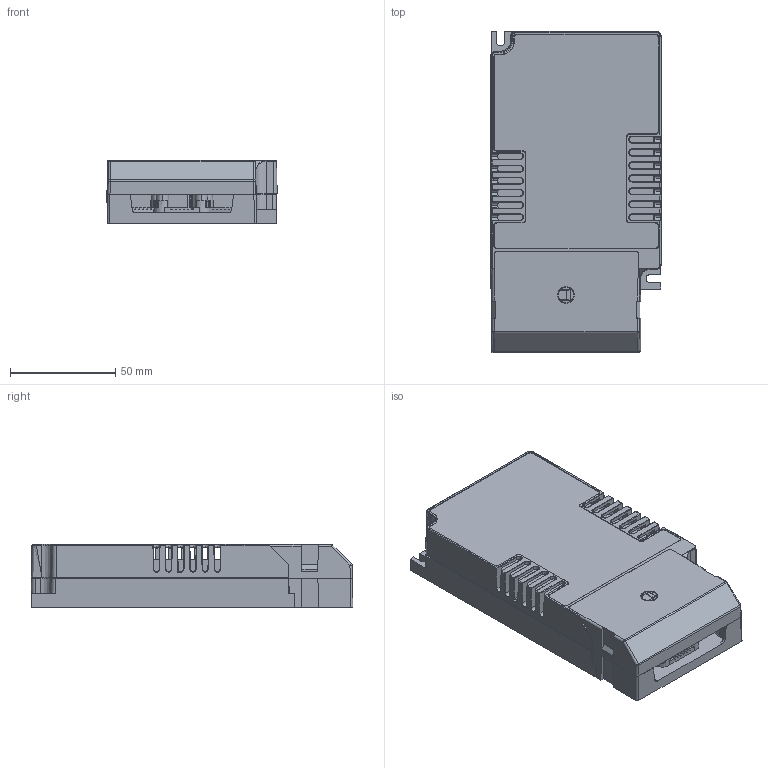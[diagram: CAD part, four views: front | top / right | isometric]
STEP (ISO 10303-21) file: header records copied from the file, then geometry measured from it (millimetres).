
FILE_DESCRIPTION (( 'STEP AP203' ), '1' );
FILE_NAME ('LC1x50-E-DA_SR.STEP', '2015-06-05T07:03:55', ( '' ), ( '' ), 'SwSTEP 2.0', 'SolidWorks 2014', '' );
FILE_SCHEMA (( 'CONFIG_CONTROL_DESIGN' ));
Length unit declared in the file: millimetre
Products named in the file (6): 148130c; 148129c; piirikortti; LC1x50-E-DA_SR; 130765; 130764
Assembly tree (5 placements, depth 2):
  LC1x50-E-DA_SR
    130764
    130765
    148130c
    148129c
    piirikortti
Bounding box: 81.09 x 153.13 x 30 mm (x, y, z)
Volume: 112625.1 mm3; surface area: 112036 mm2
Topology: 5 solids, 5 shells, 2091 faces, 5337 edges, 3254 vertices
Faces by surface type: plane 852, cylinder 684, bspline 384, cone 100, torus 47, sphere 24
Entity records: 72611 total; most frequent: CARTESIAN_POINT 25116, ORIENTED_EDGE 10662, DIRECTION 8810, EDGE_CURVE 5331, VERTEX_POINT 3254, VECTOR 3094, LINE 3094, AXIS2_PLACEMENT_3D 2858
